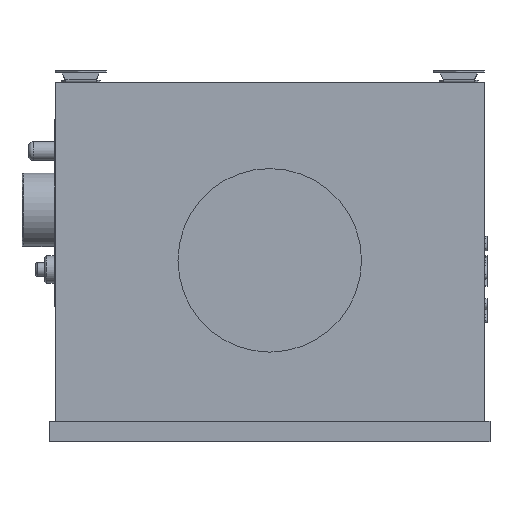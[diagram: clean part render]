
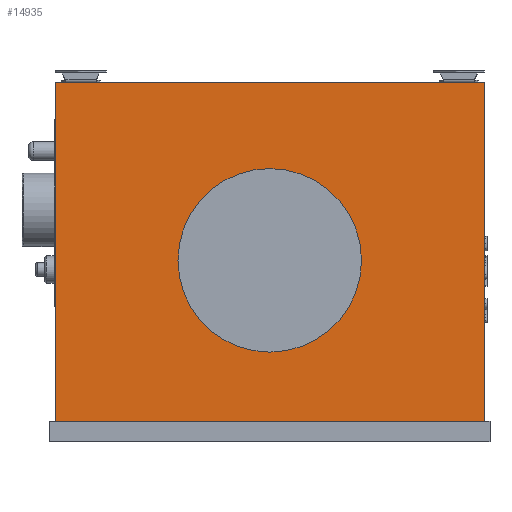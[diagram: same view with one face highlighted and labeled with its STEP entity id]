
A CAD part, left-side view. The second image highlights one B-rep face of the part: STEP entity #14935.
In plain terms, the highlighted planar face has unit normal (-1, 0, 0).
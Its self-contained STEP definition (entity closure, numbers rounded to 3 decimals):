
#177=CIRCLE('',#15520,100.);
#319=FACE_BOUND('',#2333,.T.);
#1486=FACE_OUTER_BOUND('',#2332,.T.);
#2332=EDGE_LOOP('',(#13535,#13536,#13537,#13538));
#2333=EDGE_LOOP('',(#13539));
#4090=LINE('',#26512,#5350);
#4347=LINE('',#31282,#5607);
#4350=LINE('',#31288,#5610);
#4351=LINE('',#31289,#5611);
#5350=VECTOR('',#17002,10.);
#5607=VECTOR('',#17903,10.);
#5610=VECTOR('',#17910,10.);
#5611=VECTOR('',#17911,10.);
#6765=VERTEX_POINT('',#26506);
#6767=VERTEX_POINT('',#26510);
#7057=VERTEX_POINT('',#31268);
#7060=VERTEX_POINT('',#31278);
#7062=VERTEX_POINT('',#31281);
#8782=EDGE_CURVE('',#6765,#6767,#4090,.T.);
#9227=EDGE_CURVE('',#7057,#7057,#177,.T.);
#9232=EDGE_CURVE('',#7060,#7062,#4347,.T.);
#9235=EDGE_CURVE('',#6765,#7060,#4350,.T.);
#9236=EDGE_CURVE('',#7062,#6767,#4351,.T.);
#13535=ORIENTED_EDGE('',*,*,#9235,.F.);
#13536=ORIENTED_EDGE('',*,*,#8782,.T.);
#13537=ORIENTED_EDGE('',*,*,#9236,.F.);
#13538=ORIENTED_EDGE('',*,*,#9232,.F.);
#13539=ORIENTED_EDGE('',*,*,#9227,.T.);
#13923=PLANE('',#15527);
#14935=ADVANCED_FACE('',(#1486,#319),#13923,.T.);
#15520=AXIS2_PLACEMENT_3D('',#31269,#17889,#17890);
#15527=AXIS2_PLACEMENT_3D('',#31287,#17908,#17909);
#17002=DIRECTION('',(0.,0.,1.));
#17889=DIRECTION('center_axis',(1.,0.,0.));
#17890=DIRECTION('ref_axis',(0.,0.,-1.));
#17903=DIRECTION('',(0.,0.,1.));
#17908=DIRECTION('center_axis',(-1.,0.,0.));
#17909=DIRECTION('ref_axis',(0.,-1.,0.));
#17910=DIRECTION('',(0.,1.,0.));
#17911=DIRECTION('',(0.,-1.,0.));
#26506=CARTESIAN_POINT('',(-225.676,-208.361,-173.75));
#26510=CARTESIAN_POINT('',(-225.676,-208.361,195.75));
#26512=CARTESIAN_POINT('',(-225.676,-208.361,-173.75));
#31268=CARTESIAN_POINT('',(-225.676,25.639,101.75));
#31269=CARTESIAN_POINT('Origin',(-225.676,25.639,1.75));
#31278=CARTESIAN_POINT('',(-225.676,259.639,-173.75));
#31281=CARTESIAN_POINT('',(-225.676,259.639,195.75));
#31282=CARTESIAN_POINT('',(-225.676,259.639,-173.75));
#31287=CARTESIAN_POINT('Origin',(-225.676,259.639,-173.75));
#31288=CARTESIAN_POINT('',(-225.676,-208.361,-173.75));
#31289=CARTESIAN_POINT('',(-225.676,259.639,195.75));
